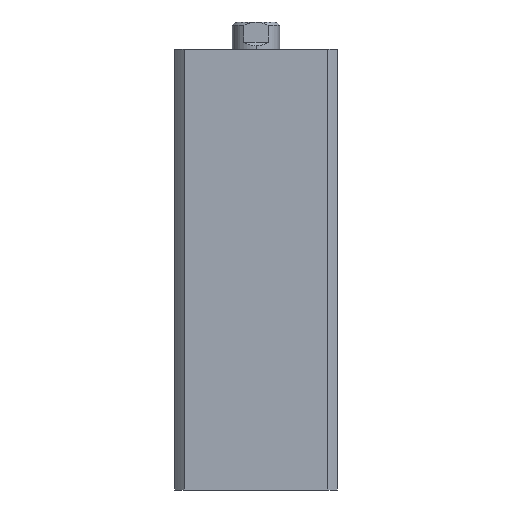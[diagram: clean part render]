
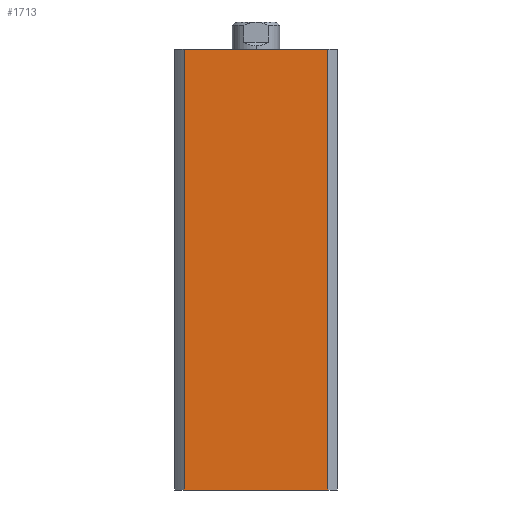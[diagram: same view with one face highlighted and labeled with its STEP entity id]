
A CAD part, left-side view. The second image highlights one B-rep face of the part: STEP entity #1713.
In plain terms, the highlighted planar face has unit normal (-1, 0, 0).
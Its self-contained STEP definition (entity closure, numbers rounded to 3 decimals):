
#12 = CARTESIAN_POINT ( 'NONE',  ( -24., 21.166, 0. ) ) ;
#24 = CARTESIAN_POINT ( 'NONE',  ( -24., -21.166, 130. ) ) ;
#39 = DIRECTION ( 'NONE',  ( 0., -1., 0. ) ) ;
#45 = CARTESIAN_POINT ( 'NONE',  ( -24., 0., 130. ) ) ;
#69 = ORIENTED_EDGE ( 'NONE', *, *, #2069, .T. ) ;
#70 = ORIENTED_EDGE ( 'NONE', *, *, #2070, .F. ) ;
#72 = ORIENTED_EDGE ( 'NONE', *, *, #1606, .F. ) ;
#73 = ORIENTED_EDGE ( 'NONE', *, *, #2071, .T. ) ;
#786 = EDGE_LOOP ( 'NONE', ( #69, #70, #72, #73 ) ) ;
#888 = VERTEX_POINT ( 'NONE', #1539 ) ;
#904 = VERTEX_POINT ( 'NONE', #12 ) ;
#909 = VERTEX_POINT ( 'NONE', #24 ) ;
#967 = LINE ( 'NONE', #45, #970 ) ;
#970 = VECTOR ( 'NONE', #39, 1000. ) ;
#1044 = FACE_OUTER_BOUND ( 'NONE', #786, .T. ) ;
#1238 = LINE ( 'NONE', #3341, #1243 ) ;
#1239 = LINE ( 'NONE', #3314, #1241 ) ;
#1240 = LINE ( 'NONE', #3339, #1245 ) ;
#1241 = VECTOR ( 'NONE', #3330, 1000. ) ;
#1243 = VECTOR ( 'NONE', #3351, 1000. ) ;
#1245 = VECTOR ( 'NONE', #3355, 1000. ) ;
#1539 = CARTESIAN_POINT ( 'NONE',  ( -24., -21.166, 0. ) ) ;
#1606 = EDGE_CURVE ( 'NONE', #4743, #909, #967, .T. ) ;
#1713 = ADVANCED_FACE ( 'NONE', ( #1044 ), #2791, .F. ) ;
#2069 = EDGE_CURVE ( 'NONE', #904, #888, #1239, .T. ) ;
#2070 = EDGE_CURVE ( 'NONE', #909, #888, #1238, .T. ) ;
#2071 = EDGE_CURVE ( 'NONE', #4743, #904, #1240, .T. ) ;
#2263 = CARTESIAN_POINT ( 'NONE',  ( -24., 21.166, 130. ) ) ;
#2785 = DIRECTION ( 'NONE',  ( 0., 0., -1. ) ) ;
#2787 = DIRECTION ( 'NONE',  ( 1., 0., 0. ) ) ;
#2791 = PLANE ( 'NONE',  #4412 ) ;
#2793 = CARTESIAN_POINT ( 'NONE',  ( -24., 0., 130. ) ) ;
#3314 = CARTESIAN_POINT ( 'NONE',  ( -24., 0., 0. ) ) ;
#3330 = DIRECTION ( 'NONE',  ( 0., -1., 0. ) ) ;
#3339 = CARTESIAN_POINT ( 'NONE',  ( -24., 21.166, 130. ) ) ;
#3341 = CARTESIAN_POINT ( 'NONE',  ( -24., -21.166, 130. ) ) ;
#3351 = DIRECTION ( 'NONE',  ( 0., 0., -1. ) ) ;
#3355 = DIRECTION ( 'NONE',  ( 0., 0., -1. ) ) ;
#4412 = AXIS2_PLACEMENT_3D ( 'NONE', #2793, #2787, #2785 ) ;
#4743 = VERTEX_POINT ( 'NONE', #2263 ) ;
